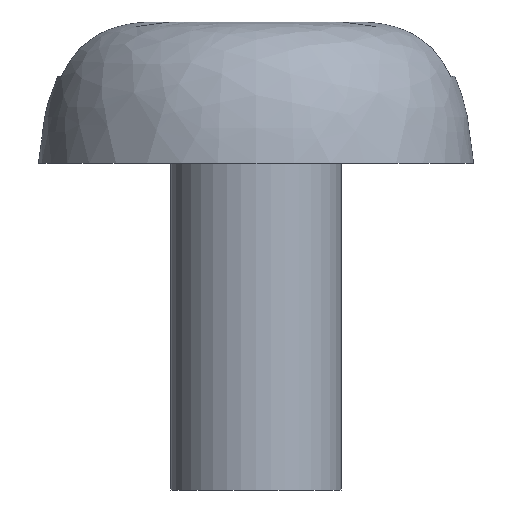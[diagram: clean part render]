
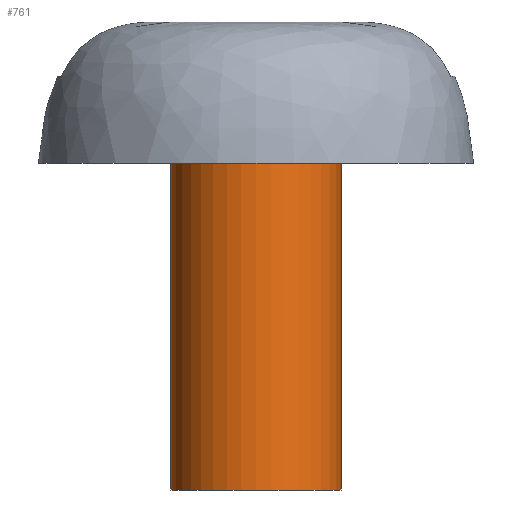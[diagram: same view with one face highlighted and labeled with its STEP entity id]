
A CAD part, front view. The second image highlights one B-rep face of the part: STEP entity #761.
In plain terms, the highlighted cylindrical face has radius 0.783 mm (diameter 1.567 mm), a full revolution.
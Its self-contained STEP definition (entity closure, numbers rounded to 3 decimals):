
#49 = PLANE('',#50);
#50 = AXIS2_PLACEMENT_3D('',#51,#52,#53);
#51 = CARTESIAN_POINT('',(0.,0.,0.));
#52 = DIRECTION('',(0.,0.,1.));
#53 = DIRECTION('',(1.,0.,-0.));
#79 = EDGE_CURVE('',#80,#80,#82,.T.);
#80 = VERTEX_POINT('',#81);
#81 = CARTESIAN_POINT('',(0.783,0.,0.));
#82 = SURFACE_CURVE('',#83,(#88,#95),.PCURVE_S1.);
#83 = CIRCLE('',#84,0.783);
#84 = AXIS2_PLACEMENT_3D('',#85,#86,#87);
#85 = CARTESIAN_POINT('',(0.,0.,0.));
#86 = DIRECTION('',(0.,0.,1.));
#87 = DIRECTION('',(1.,0.,-0.));
#88 = PCURVE('',#49,#89);
#89 = DEFINITIONAL_REPRESENTATION('',(#90),#94);
#90 = CIRCLE('',#91,0.783);
#91 = AXIS2_PLACEMENT_2D('',#92,#93);
#92 = CARTESIAN_POINT('',(0.,0.));
#93 = DIRECTION('',(1.,-0.));
#94 = ( GEOMETRIC_REPRESENTATION_CONTEXT(2) 
PARAMETRIC_REPRESENTATION_CONTEXT() REPRESENTATION_CONTEXT('2D SPACE',''
  ) );
#95 = PCURVE('',#96,#101);
#96 = CYLINDRICAL_SURFACE('',#97,0.783);
#97 = AXIS2_PLACEMENT_3D('',#98,#99,#100);
#98 = CARTESIAN_POINT('',(0.,0.,-3.));
#99 = DIRECTION('',(0.,0.,1.));
#100 = DIRECTION('',(1.,0.,-0.));
#101 = DEFINITIONAL_REPRESENTATION('',(#102),#106);
#102 = LINE('',#103,#104);
#103 = CARTESIAN_POINT('',(0.,3.));
#104 = VECTOR('',#105,1.);
#105 = DIRECTION('',(1.,0.));
#106 = ( GEOMETRIC_REPRESENTATION_CONTEXT(2) 
PARAMETRIC_REPRESENTATION_CONTEXT() REPRESENTATION_CONTEXT('2D SPACE',''
  ) );
#761 = ADVANCED_FACE('',(#762),#96,.T.);
#762 = FACE_BOUND('',#763,.T.);
#763 = EDGE_LOOP('',(#764,#765,#788,#815));
#764 = ORIENTED_EDGE('',*,*,#79,.F.);
#765 = ORIENTED_EDGE('',*,*,#766,.F.);
#766 = EDGE_CURVE('',#767,#80,#769,.T.);
#767 = VERTEX_POINT('',#768);
#768 = CARTESIAN_POINT('',(0.783,0.,-3.));
#769 = SEAM_CURVE('',#770,(#774,#781),.PCURVE_S1.);
#770 = LINE('',#771,#772);
#771 = CARTESIAN_POINT('',(0.783,0.,-3.));
#772 = VECTOR('',#773,1.);
#773 = DIRECTION('',(0.,0.,1.));
#774 = PCURVE('',#96,#775);
#775 = DEFINITIONAL_REPRESENTATION('',(#776),#780);
#776 = LINE('',#777,#778);
#777 = CARTESIAN_POINT('',(6.283,-0.));
#778 = VECTOR('',#779,1.);
#779 = DIRECTION('',(0.,1.));
#780 = ( GEOMETRIC_REPRESENTATION_CONTEXT(2) 
PARAMETRIC_REPRESENTATION_CONTEXT() REPRESENTATION_CONTEXT('2D SPACE',''
  ) );
#781 = PCURVE('',#96,#782);
#782 = DEFINITIONAL_REPRESENTATION('',(#783),#787);
#783 = LINE('',#784,#785);
#784 = CARTESIAN_POINT('',(0.,-0.));
#785 = VECTOR('',#786,1.);
#786 = DIRECTION('',(0.,1.));
#787 = ( GEOMETRIC_REPRESENTATION_CONTEXT(2) 
PARAMETRIC_REPRESENTATION_CONTEXT() REPRESENTATION_CONTEXT('2D SPACE',''
  ) );
#788 = ORIENTED_EDGE('',*,*,#789,.T.);
#789 = EDGE_CURVE('',#767,#767,#790,.T.);
#790 = SURFACE_CURVE('',#791,(#796,#803),.PCURVE_S1.);
#791 = CIRCLE('',#792,0.783);
#792 = AXIS2_PLACEMENT_3D('',#793,#794,#795);
#793 = CARTESIAN_POINT('',(0.,0.,-3.));
#794 = DIRECTION('',(0.,0.,1.));
#795 = DIRECTION('',(1.,0.,-0.));
#796 = PCURVE('',#96,#797);
#797 = DEFINITIONAL_REPRESENTATION('',(#798),#802);
#798 = LINE('',#799,#800);
#799 = CARTESIAN_POINT('',(0.,0.));
#800 = VECTOR('',#801,1.);
#801 = DIRECTION('',(1.,0.));
#802 = ( GEOMETRIC_REPRESENTATION_CONTEXT(2) 
PARAMETRIC_REPRESENTATION_CONTEXT() REPRESENTATION_CONTEXT('2D SPACE',''
  ) );
#803 = PCURVE('',#804,#809);
#804 = PLANE('',#805);
#805 = AXIS2_PLACEMENT_3D('',#806,#807,#808);
#806 = CARTESIAN_POINT('',(0.,0.,-3.));
#807 = DIRECTION('',(0.,0.,1.));
#808 = DIRECTION('',(1.,0.,-0.));
#809 = DEFINITIONAL_REPRESENTATION('',(#810),#814);
#810 = CIRCLE('',#811,0.783);
#811 = AXIS2_PLACEMENT_2D('',#812,#813);
#812 = CARTESIAN_POINT('',(0.,0.));
#813 = DIRECTION('',(1.,0.));
#814 = ( GEOMETRIC_REPRESENTATION_CONTEXT(2) 
PARAMETRIC_REPRESENTATION_CONTEXT() REPRESENTATION_CONTEXT('2D SPACE',''
  ) );
#815 = ORIENTED_EDGE('',*,*,#766,.T.);
